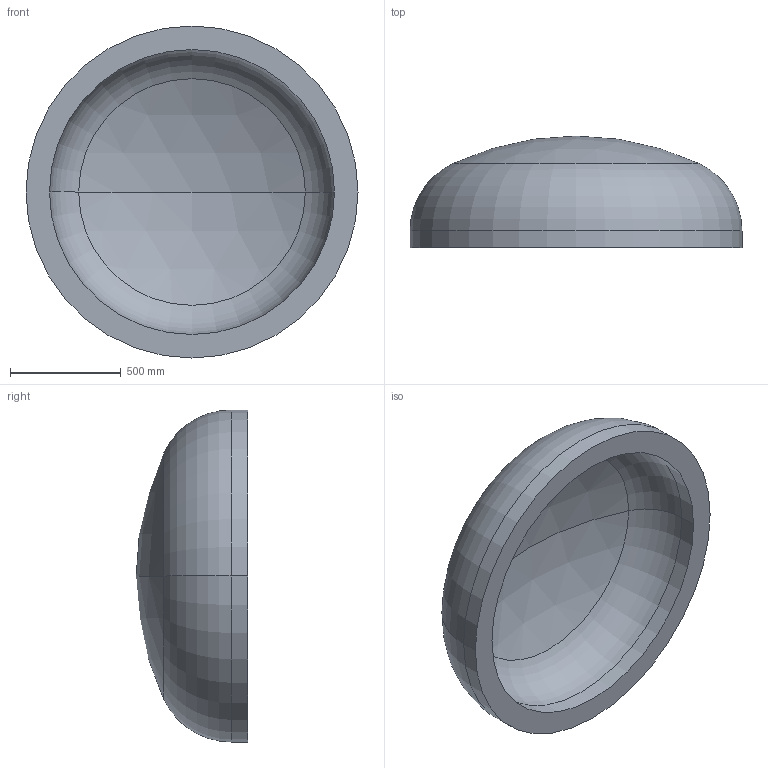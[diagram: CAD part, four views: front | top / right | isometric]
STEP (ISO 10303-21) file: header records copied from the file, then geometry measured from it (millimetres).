
FILE_DESCRIPTION (( 'STEP AP203' ), '1' );
FILE_NAME ('DIN 28013 Korbbogenform_-_Boden DIN 28013 - 1500 x 75 - I - s=106.step', '2016-07-01T10:59:06', ( '' ), ( '' ), 'SwSTEP 2.0', 'SolidWorks 2013', '' );
FILE_SCHEMA (( 'CONFIG_CONTROL_DESIGN' ));
Length unit declared in the file: millimetre
Products named in the file (1): DIN 28013 Korbbogenform_-_Boden DIN 28013 - 1500 x 75 - I - s=106
Bounding box: 1500 x 503.79 x 1500 mm (x, y, z)
Volume: 271864565.8 mm3; surface area: 5617265.9 mm2
Topology: 1 solids, 1 shells, 13 faces, 24 edges, 14 vertices
Faces by surface type: torus 4, cylinder 4, sphere 4, plane 1
Entity records: 407 total; most frequent: DIRECTION 72, CARTESIAN_POINT 52, ORIENTED_EDGE 48, AXIS2_PLACEMENT_3D 34, EDGE_CURVE 24, CIRCLE 20, EDGE_LOOP 14, VERTEX_POINT 14
